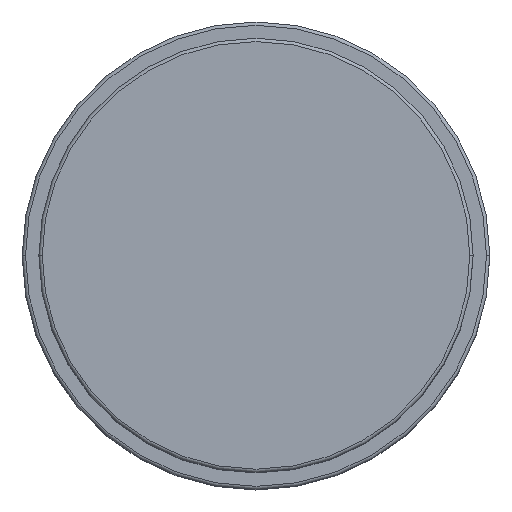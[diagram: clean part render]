
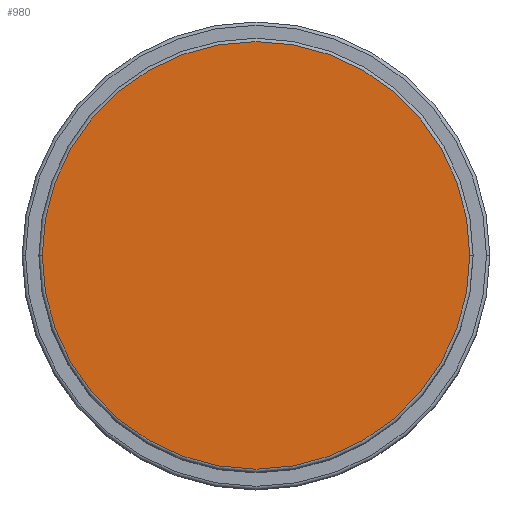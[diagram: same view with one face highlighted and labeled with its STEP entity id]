
A CAD part, top view. The second image highlights one B-rep face of the part: STEP entity #980.
In plain terms, the highlighted planar face has unit normal (0, 0, 1).
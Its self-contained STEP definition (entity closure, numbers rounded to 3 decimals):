
#37 = VERTEX_POINT ( 'NONE', #175 ) ;
#69 = FACE_OUTER_BOUND ( 'NONE', #1347, .T. ) ;
#126 = PLANE ( 'NONE',  #459 ) ;
#133 = CARTESIAN_POINT ( 'NONE',  ( 0., 0., 67. ) ) ;
#175 = CARTESIAN_POINT ( 'NONE',  ( -32., 0., 67. ) ) ;
#426 = CARTESIAN_POINT ( 'NONE',  ( 0., 0., 67. ) ) ;
#452 = DIRECTION ( 'NONE',  ( 1., 0., 0. ) ) ;
#459 = AXIS2_PLACEMENT_3D ( 'NONE', #426, #614, #1712 ) ;
#532 = VERTEX_POINT ( 'NONE', #1280 ) ;
#614 = DIRECTION ( 'NONE',  ( 0., 0., 1. ) ) ;
#651 = EDGE_CURVE ( 'NONE', #37, #532, #1768, .T. ) ;
#655 = DIRECTION ( 'NONE',  ( 1., 0., 0. ) ) ;
#800 = DIRECTION ( 'NONE',  ( 0., 0., 1. ) ) ;
#901 = EDGE_CURVE ( 'NONE', #532, #37, #936, .T. ) ;
#936 = CIRCLE ( 'NONE', #1601, 32. ) ;
#961 = ORIENTED_EDGE ( 'NONE', *, *, #901, .T. ) ;
#967 = CARTESIAN_POINT ( 'NONE',  ( 0., 0., 67. ) ) ;
#980 = ADVANCED_FACE ( 'NONE', ( #69 ), #126, .T. ) ;
#1280 = CARTESIAN_POINT ( 'NONE',  ( 32., 0., 67. ) ) ;
#1347 = EDGE_LOOP ( 'NONE', ( #961, #1428 ) ) ;
#1428 = ORIENTED_EDGE ( 'NONE', *, *, #651, .T. ) ;
#1601 = AXIS2_PLACEMENT_3D ( 'NONE', #133, #2013, #452 ) ;
#1712 = DIRECTION ( 'NONE',  ( 1., 0., 0. ) ) ;
#1768 = CIRCLE ( 'NONE', #1896, 32. ) ;
#1896 = AXIS2_PLACEMENT_3D ( 'NONE', #967, #800, #655 ) ;
#2013 = DIRECTION ( 'NONE',  ( 0., 0., 1. ) ) ;
